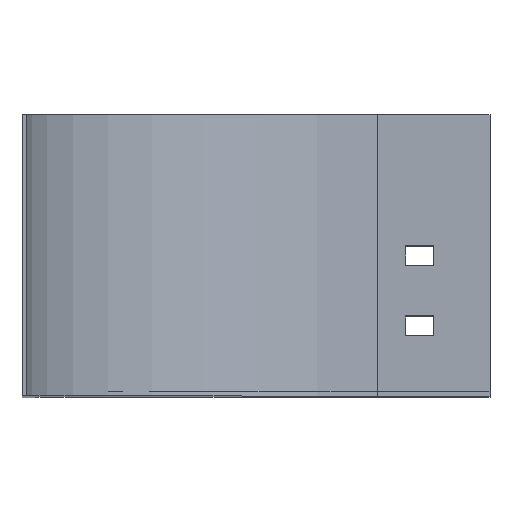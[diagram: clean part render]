
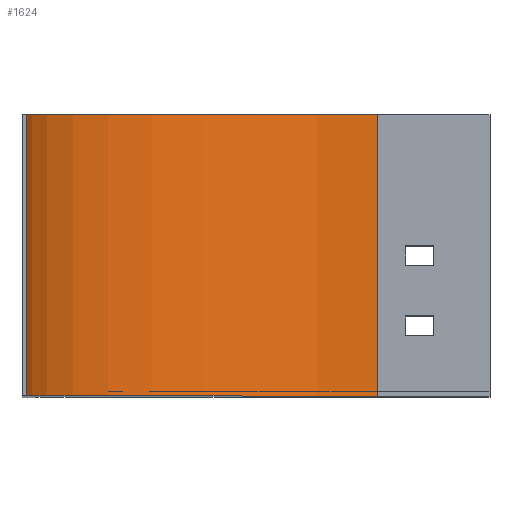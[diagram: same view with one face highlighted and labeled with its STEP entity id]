
A CAD part, top view. The second image highlights one B-rep face of the part: STEP entity #1624.
In plain terms, the highlighted cylindrical face has radius 125 mm (diameter 250 mm), a partial arc.
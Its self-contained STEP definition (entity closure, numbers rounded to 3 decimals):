
#15 = AXIS2_PLACEMENT_3D ( 'NONE', #436, #416, #1483 ) ;
#31 = EDGE_CURVE ( 'NONE', #564, #1518, #151, .T. ) ;
#151 = LINE ( 'NONE', #885, #541 ) ;
#202 = ORIENTED_EDGE ( 'NONE', *, *, #1010, .T. ) ;
#208 = VERTEX_POINT ( 'NONE', #1293 ) ;
#244 = CYLINDRICAL_SURFACE ( 'NONE', #588, 125. ) ;
#404 = CARTESIAN_POINT ( 'NONE',  ( 0., 100., -125. ) ) ;
#416 = DIRECTION ( 'NONE',  ( 0., -1., 0. ) ) ;
#436 = CARTESIAN_POINT ( 'NONE',  ( 0., 0., 0. ) ) ;
#492 = ORIENTED_EDGE ( 'NONE', *, *, #31, .T. ) ;
#541 = VECTOR ( 'NONE', #1556, 1000. ) ;
#564 = VERTEX_POINT ( 'NONE', #854 ) ;
#588 = AXIS2_PLACEMENT_3D ( 'NONE', #1424, #888, #1167 ) ;
#644 = CARTESIAN_POINT ( 'NONE',  ( 0., 0., -125. ) ) ;
#736 = ORIENTED_EDGE ( 'NONE', *, *, #796, .F. ) ;
#796 = EDGE_CURVE ( 'NONE', #564, #208, #1204, .T. ) ;
#838 = CARTESIAN_POINT ( 'NONE',  ( 0., 100., 0. ) ) ;
#845 = VECTOR ( 'NONE', #1174, 1000. ) ;
#854 = CARTESIAN_POINT ( 'NONE',  ( -125., 100., 0. ) ) ;
#885 = CARTESIAN_POINT ( 'NONE',  ( -125., 100., 0. ) ) ;
#888 = DIRECTION ( 'NONE',  ( 0., -1., 0. ) ) ;
#976 = AXIS2_PLACEMENT_3D ( 'NONE', #838, #1384, #1136 ) ;
#1010 = EDGE_CURVE ( 'NONE', #1518, #1622, #1313, .T. ) ;
#1053 = LINE ( 'NONE', #404, #845 ) ;
#1136 = DIRECTION ( 'NONE',  ( 0., 0., -1. ) ) ;
#1167 = DIRECTION ( 'NONE',  ( 0., 0., -1. ) ) ;
#1174 = DIRECTION ( 'NONE',  ( 0., -1., 0. ) ) ;
#1204 = CIRCLE ( 'NONE', #976, 125. ) ;
#1213 = EDGE_LOOP ( 'NONE', ( #202, #1291, #736, #492 ) ) ;
#1221 = EDGE_CURVE ( 'NONE', #208, #1622, #1053, .T. ) ;
#1256 = CARTESIAN_POINT ( 'NONE',  ( -125., 0., 0. ) ) ;
#1275 = FACE_OUTER_BOUND ( 'NONE', #1213, .T. ) ;
#1291 = ORIENTED_EDGE ( 'NONE', *, *, #1221, .F. ) ;
#1293 = CARTESIAN_POINT ( 'NONE',  ( 0., 100., -125. ) ) ;
#1313 = CIRCLE ( 'NONE', #15, 125. ) ;
#1384 = DIRECTION ( 'NONE',  ( 0., -1., 0. ) ) ;
#1424 = CARTESIAN_POINT ( 'NONE',  ( 0., 100., 0. ) ) ;
#1483 = DIRECTION ( 'NONE',  ( 0., 0., -1. ) ) ;
#1518 = VERTEX_POINT ( 'NONE', #1256 ) ;
#1556 = DIRECTION ( 'NONE',  ( 0., -1., 0. ) ) ;
#1622 = VERTEX_POINT ( 'NONE', #644 ) ;
#1624 = ADVANCED_FACE ( 'NONE', ( #1275 ), #244, .F. ) ;
